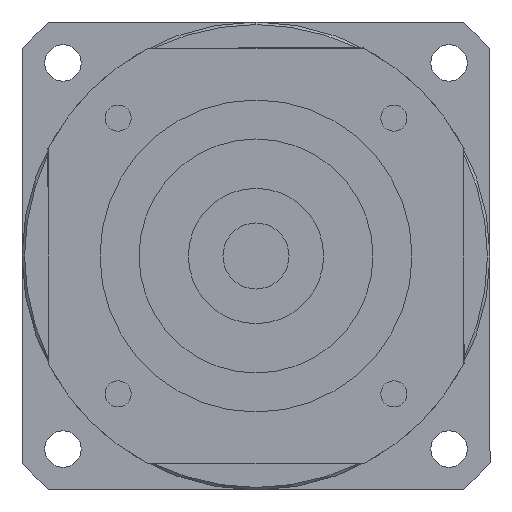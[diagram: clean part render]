
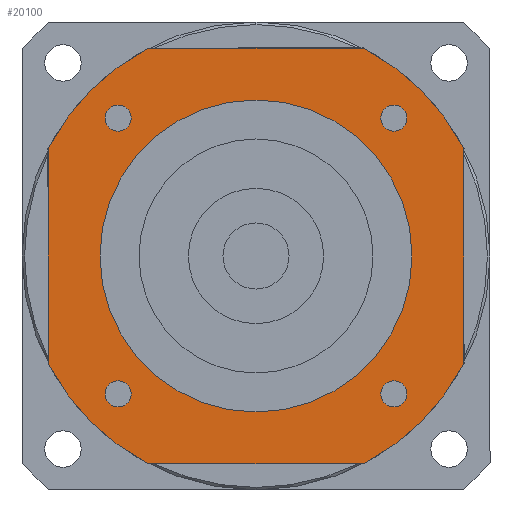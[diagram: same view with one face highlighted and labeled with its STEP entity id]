
A CAD part, left-side view. The second image highlights one B-rep face of the part: STEP entity #20100.
In plain terms, the highlighted planar face has unit normal (-1, 0, 0) as drawn and (0, 0, -1) by its records, which use the part's own axes.
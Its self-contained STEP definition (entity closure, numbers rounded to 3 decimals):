
#15810=CARTESIAN_POINT('',(-20.616,40.,-117.));
#15820=VERTEX_POINT('',#15810);
#15980=CARTESIAN_POINT('',(-40.,20.616,-117.));
#15990=VERTEX_POINT('',#15980);
#16020=CARTESIAN_POINT('',(0.,0.,
-117.));
#16030=DIRECTION('',(0.,0.,1.));
#16040=DIRECTION('',(0.,-1.,0.));
#16050=AXIS2_PLACEMENT_3D('',#16020,#16030,#16040);
#16060=CIRCLE('',#16050,45.);
#16070=EDGE_CURVE('',#15820,#15990,#16060,.T.);
#18340=CARTESIAN_POINT('',(20.616,40.,-117.));
#18350=VERTEX_POINT('',#18340);
#18480=CARTESIAN_POINT('',(40.,40.,-117.));
#18490=DIRECTION('',(-1.,0.,0.));
#18500=VECTOR('',#18490,1000.);
#18510=LINE('',#18480,#18500);
#18520=EDGE_CURVE('',#18350,#15820,#18510,.T.);
#18570=CARTESIAN_POINT('',(-40.,40.,-117.));
#18580=DIRECTION('',(0.,0.,1.));
#18590=DIRECTION('',(-1.,0.,0.));
#18600=AXIS2_PLACEMENT_3D('',#18570,#18580,#18590);
#18610=PLANE('',#18600);
#18620=CARTESIAN_POINT('',(26.517,-26.517,-117.));
#18630=DIRECTION('',(0.,0.,-1.));
#18640=DIRECTION('',(1.,0.,0.));
#18650=AXIS2_PLACEMENT_3D('',#18620,#18630,#18640);
#18660=CIRCLE('',#18650,2.5);
#18670=CARTESIAN_POINT('',(29.017,-26.517,-117.));
#18680=VERTEX_POINT('',#18670);
#18690=CARTESIAN_POINT('',(26.517,-29.017,-117.));
#18700=VERTEX_POINT('',#18690);
#18710=EDGE_CURVE('',#18680,#18700,#18660,.T.);
#18720=ORIENTED_EDGE('',*,*,#18710,.F.);
#18730=CARTESIAN_POINT('',(26.517,-24.017,-117.));
#18740=VERTEX_POINT('',#18730);
#18750=EDGE_CURVE('',#18700,#18740,#18660,.T.);
#18760=ORIENTED_EDGE('',*,*,#18750,.F.);
#18770=EDGE_CURVE('',#18740,#18680,#18660,.T.);
#18780=ORIENTED_EDGE('',*,*,#18770,.F.);
#18790=EDGE_LOOP('',(#18780,#18760,#18720));
#18800=FACE_BOUND('',#18790,.T.);
#18810=CARTESIAN_POINT('',(26.517,26.517,-117.));
#18820=DIRECTION('',(0.,0.,-1.));
#18830=DIRECTION('',(0.,1.,0.));
#18840=AXIS2_PLACEMENT_3D('',#18810,#18820,#18830);
#18850=CIRCLE('',#18840,2.5);
#18860=CARTESIAN_POINT('',(26.517,29.017,-117.));
#18870=VERTEX_POINT('',#18860);
#18880=CARTESIAN_POINT('',(29.017,26.517,-117.));
#18890=VERTEX_POINT('',#18880);
#18900=EDGE_CURVE('',#18870,#18890,#18850,.T.);
#18910=ORIENTED_EDGE('',*,*,#18900,.F.);
#18920=CARTESIAN_POINT('',(24.017,26.517,-117.));
#18930=VERTEX_POINT('',#18920);
#18940=EDGE_CURVE('',#18890,#18930,#18850,.T.);
#18950=ORIENTED_EDGE('',*,*,#18940,.F.);
#18960=EDGE_CURVE('',#18930,#18870,#18850,.T.);
#18970=ORIENTED_EDGE('',*,*,#18960,.F.);
#18980=EDGE_LOOP('',(#18970,#18950,#18910));
#18990=FACE_BOUND('',#18980,.T.);
#19000=CARTESIAN_POINT('',(-26.517,26.517,-117.));
#19010=DIRECTION('',(0.,0.,-1.));
#19020=DIRECTION('',(-1.,0.,0.));
#19030=AXIS2_PLACEMENT_3D('',#19000,#19010,#19020);
#19040=CIRCLE('',#19030,2.5);
#19050=CARTESIAN_POINT('',(-29.017,26.517,-117.));
#19060=VERTEX_POINT('',#19050);
#19070=CARTESIAN_POINT('',(-26.517,29.017,-117.));
#19080=VERTEX_POINT('',#19070);
#19090=EDGE_CURVE('',#19060,#19080,#19040,.T.);
#19100=ORIENTED_EDGE('',*,*,#19090,.F.);
#19110=CARTESIAN_POINT('',(-26.517,24.017,-117.));
#19120=VERTEX_POINT('',#19110);
#19130=EDGE_CURVE('',#19080,#19120,#19040,.T.);
#19140=ORIENTED_EDGE('',*,*,#19130,.F.);
#19150=EDGE_CURVE('',#19120,#19060,#19040,.T.);
#19160=ORIENTED_EDGE('',*,*,#19150,.F.);
#19170=EDGE_LOOP('',(#19160,#19140,#19100));
#19180=FACE_BOUND('',#19170,.T.);
#19190=CARTESIAN_POINT('',(-26.517,-26.517,-117.));
#19200=DIRECTION('',(0.,0.,-1.));
#19210=DIRECTION('',(0.,-1.,0.));
#19220=AXIS2_PLACEMENT_3D('',#19190,#19200,#19210);
#19230=CIRCLE('',#19220,2.5);
#19240=CARTESIAN_POINT('',(-26.517,-29.017,-117.));
#19250=VERTEX_POINT('',#19240);
#19260=CARTESIAN_POINT('',(-29.017,-26.517,-117.));
#19270=VERTEX_POINT('',#19260);
#19280=EDGE_CURVE('',#19250,#19270,#19230,.T.);
#19290=ORIENTED_EDGE('',*,*,#19280,.F.);
#19300=CARTESIAN_POINT('',(-24.017,-26.517,-117.));
#19310=VERTEX_POINT('',#19300);
#19320=EDGE_CURVE('',#19270,#19310,#19230,.T.);
#19330=ORIENTED_EDGE('',*,*,#19320,.F.);
#19340=EDGE_CURVE('',#19310,#19250,#19230,.T.);
#19350=ORIENTED_EDGE('',*,*,#19340,.F.);
#19360=EDGE_LOOP('',(#19350,#19330,#19290));
#19370=FACE_BOUND('',#19360,.T.);
#19380=CARTESIAN_POINT('',(0.,0.,
-117.));
#19390=DIRECTION('',(0.,0.,1.));
#19400=DIRECTION('',(0.,-1.,0.));
#19410=AXIS2_PLACEMENT_3D('',#19380,#19390,#19400);
#19420=CIRCLE('',#19410,45.);
#19430=CARTESIAN_POINT('',(-40.,-20.616,-117.));
#19440=VERTEX_POINT('',#19430);
#19450=CARTESIAN_POINT('',(-20.616,-40.,-117.));
#19460=VERTEX_POINT('',#19450);
#19470=EDGE_CURVE('',#19440,#19460,#19420,.T.);
#19480=ORIENTED_EDGE('',*,*,#19470,.F.);
#19490=CARTESIAN_POINT('',(-40.,-40.,-117.));
#19500=DIRECTION('',(1.,0.,0.));
#19510=VECTOR('',#19500,1000.);
#19520=LINE('',#19490,#19510);
#19530=CARTESIAN_POINT('',(20.616,-40.,-117.));
#19540=VERTEX_POINT('',#19530);
#19550=EDGE_CURVE('',#19460,#19540,#19520,.T.);
#19560=ORIENTED_EDGE('',*,*,#19550,.F.);
#19570=CARTESIAN_POINT('',(0.,0.,
-117.));
#19580=DIRECTION('',(0.,0.,1.));
#19590=DIRECTION('',(0.,-1.,0.));
#19600=AXIS2_PLACEMENT_3D('',#19570,#19580,#19590);
#19610=CIRCLE('',#19600,45.);
#19620=CARTESIAN_POINT('',(40.,-20.616,-117.));
#19630=VERTEX_POINT('',#19620);
#19640=EDGE_CURVE('',#19540,#19630,#19610,.T.);
#19650=ORIENTED_EDGE('',*,*,#19640,.F.);
#19660=CARTESIAN_POINT('',(40.,-40.,-117.));
#19670=DIRECTION('',(0.,1.,0.));
#19680=VECTOR('',#19670,1000.);
#19690=LINE('',#19660,#19680);
#19700=CARTESIAN_POINT('',(40.,20.616,-117.));
#19710=VERTEX_POINT('',#19700);
#19720=EDGE_CURVE('',#19630,#19710,#19690,.T.);
#19730=ORIENTED_EDGE('',*,*,#19720,.F.);
#19740=CARTESIAN_POINT('',(0.,0.,
-117.));
#19750=DIRECTION('',(0.,0.,1.));
#19760=DIRECTION('',(0.,-1.,0.));
#19770=AXIS2_PLACEMENT_3D('',#19740,#19750,#19760);
#19780=CIRCLE('',#19770,45.);
#19790=EDGE_CURVE('',#19710,#18350,#19780,.T.);
#19800=ORIENTED_EDGE('',*,*,#19790,.F.);
#19810=ORIENTED_EDGE('',*,*,#18520,.F.);
#19820=ORIENTED_EDGE('',*,*,#16070,.F.);
#19830=CARTESIAN_POINT('',(-40.,40.,-117.));
#19840=DIRECTION('',(0.,-1.,0.));
#19850=VECTOR('',#19840,1000.);
#19860=LINE('',#19830,#19850);
#19870=EDGE_CURVE('',#15990,#19440,#19860,.T.);
#19880=ORIENTED_EDGE('',*,*,#19870,.F.);
#19890=EDGE_LOOP('',(#19880,#19820,#19810,#19800,#19730,#19650,#19560,
#19480));
#19900=FACE_OUTER_BOUND('',#19890,.T.);
#19910=CARTESIAN_POINT('',(0.,0.,
-117.));
#19920=DIRECTION('',(0.,0.,1.));
#19930=DIRECTION('',(0.,-1.,0.));
#19940=AXIS2_PLACEMENT_3D('',#19910,#19920,#19930);
#19950=CIRCLE('',#19940,30.);
#19960=CARTESIAN_POINT('',(30.,0.,-117.));
#19970=VERTEX_POINT('',#19960);
#19980=CARTESIAN_POINT('',(-30.,0.,-117.));
#19990=VERTEX_POINT('',#19980);
#20000=EDGE_CURVE('',#19970,#19990,#19950,.T.);
#20010=ORIENTED_EDGE('',*,*,#20000,.T.);
#20020=CARTESIAN_POINT('',(0.,-30.,-117.));
#20030=VERTEX_POINT('',#20020);
#20040=EDGE_CURVE('',#20030,#19970,#19950,.T.);
#20050=ORIENTED_EDGE('',*,*,#20040,.T.);
#20060=EDGE_CURVE('',#19990,#20030,#19950,.T.);
#20070=ORIENTED_EDGE('',*,*,#20060,.T.);
#20080=EDGE_LOOP('',(#20070,#20050,#20010));
#20090=FACE_BOUND('',#20080,.T.);
#20100=ADVANCED_FACE('',(#18800,#18990,#19180,#19370,#19900,#20090),
#18610,.F.);
